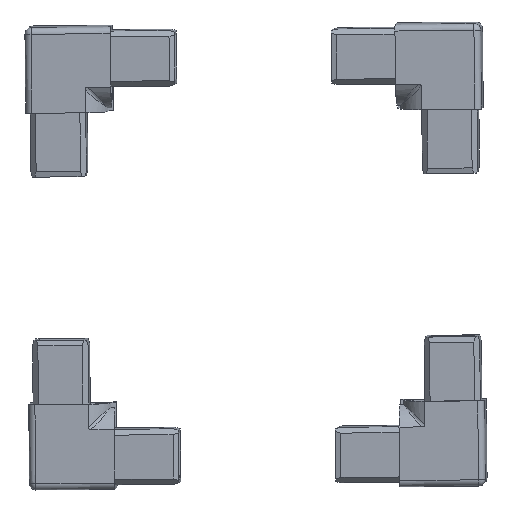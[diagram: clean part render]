
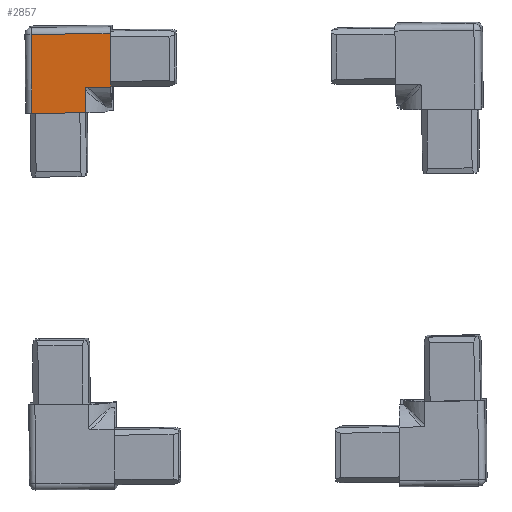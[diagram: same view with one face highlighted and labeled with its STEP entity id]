
A CAD part, left-side view. The second image highlights one B-rep face of the part: STEP entity #2857.
In plain terms, the highlighted planar face has unit normal (-0.999, 0.037, -0.033) as drawn and (0, 0, -1) by its records, which use the part's own axes.
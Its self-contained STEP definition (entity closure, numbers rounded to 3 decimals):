
#9 = EDGE_CURVE ( 'NONE', #1934, #2987, #3075, .T. ) ;
#86 = EDGE_CURVE ( 'NONE', #202, #1067, #1609, .T. ) ;
#98 = CARTESIAN_POINT ( 'NONE',  ( -13.021, 14.133, -15. ) ) ;
#166 = VERTEX_POINT ( 'NONE', #2409 ) ;
#184 = DIRECTION ( 'NONE',  ( 0., -1., 0. ) ) ;
#202 = VERTEX_POINT ( 'NONE', #977 ) ;
#235 = CARTESIAN_POINT ( 'NONE',  ( -25., 13.021, -15. ) ) ;
#247 = LINE ( 'NONE', #1017, #1184 ) ;
#255 = ORIENTED_EDGE ( 'NONE', *, *, #869, .T. ) ;
#391 = CARTESIAN_POINT ( 'NONE',  ( 12., -15., -15. ) ) ;
#455 = DIRECTION ( 'NONE',  ( 0., 1., 0. ) ) ;
#468 = CARTESIAN_POINT ( 'NONE',  ( -13.021, 14.133, -15. ) ) ;
#537 = VECTOR ( 'NONE', #1728, 1000. ) ;
#578 = EDGE_CURVE ( 'NONE', #2728, #1934, #1074, .T. ) ;
#700 = B_SPLINE_CURVE_WITH_KNOTS ( 'NONE', 3,
 ( #990, #3101, #1949, #468 ),
 .UNSPECIFIED., .F., .F.,
 ( 4, 4 ),
 ( 0., 1. ),
 .UNSPECIFIED. ) ;
#745 = ORIENTED_EDGE ( 'NONE', *, *, #1673, .T. ) ;
#808 = VECTOR ( 'NONE', #184, 1000. ) ;
#869 = EDGE_CURVE ( 'NONE', #2976, #166, #2879, .T. ) ;
#874 = CARTESIAN_POINT ( 'NONE',  ( -25., -15., -15. ) ) ;
#941 = CARTESIAN_POINT ( 'NONE',  ( -13.021, -0.511, -15. ) ) ;
#961 = DIRECTION ( 'NONE',  ( 0., 0., 1. ) ) ;
#977 = CARTESIAN_POINT ( 'NONE',  ( 12., 25., -15. ) ) ;
#990 = CARTESIAN_POINT ( 'NONE',  ( -14.133, 13.021, -15. ) ) ;
#1017 = CARTESIAN_POINT ( 'NONE',  ( 15., 25., -15. ) ) ;
#1067 = VERTEX_POINT ( 'NONE', #1349 ) ;
#1074 = LINE ( 'NONE', #1089, #2132 ) ;
#1089 = CARTESIAN_POINT ( 'NONE',  ( 0.511, 13.021, -15. ) ) ;
#1183 = DIRECTION ( 'NONE',  ( 1., 0., 0. ) ) ;
#1184 = VECTOR ( 'NONE', #1990, 1000. ) ;
#1209 = EDGE_CURVE ( 'NONE', #202, #166, #247, .T. ) ;
#1349 = CARTESIAN_POINT ( 'NONE',  ( 12., -12., -15. ) ) ;
#1609 = LINE ( 'NONE', #391, #2969 ) ;
#1673 = EDGE_CURVE ( 'NONE', #1067, #2987, #2709, .T. ) ;
#1728 = DIRECTION ( 'NONE',  ( -1., 0., 0. ) ) ;
#1814 = CARTESIAN_POINT ( 'NONE',  ( -14.133, 13.021, -15. ) ) ;
#1855 = ORIENTED_EDGE ( 'NONE', *, *, #2852, .T. ) ;
#1926 = CARTESIAN_POINT ( 'NONE',  ( 15., -12., -15. ) ) ;
#1934 = VERTEX_POINT ( 'NONE', #235 ) ;
#1949 = CARTESIAN_POINT ( 'NONE',  ( -13.021, 13.402, -15. ) ) ;
#1959 = AXIS2_PLACEMENT_3D ( 'NONE', #2674, #961, #1183 ) ;
#1990 = DIRECTION ( 'NONE',  ( -1., 0., 0. ) ) ;
#2132 = VECTOR ( 'NONE', #2775, 1000. ) ;
#2409 = CARTESIAN_POINT ( 'NONE',  ( -13.021, 25., -15. ) ) ;
#2421 = EDGE_LOOP ( 'NONE', ( #2620, #745, #2477, #2977, #1855, #255, #2597 ) ) ;
#2477 = ORIENTED_EDGE ( 'NONE', *, *, #9, .F. ) ;
#2577 = DIRECTION ( 'NONE',  ( 0., -1., 0. ) ) ;
#2597 = ORIENTED_EDGE ( 'NONE', *, *, #1209, .F. ) ;
#2620 = ORIENTED_EDGE ( 'NONE', *, *, #86, .T. ) ;
#2644 = FACE_OUTER_BOUND ( 'NONE', #2421, .T. ) ;
#2674 = CARTESIAN_POINT ( 'NONE',  ( 15., -15., -15. ) ) ;
#2709 = LINE ( 'NONE', #1926, #537 ) ;
#2728 = VERTEX_POINT ( 'NONE', #1814 ) ;
#2775 = DIRECTION ( 'NONE',  ( -1., 0., 0. ) ) ;
#2852 = EDGE_CURVE ( 'NONE', #2728, #2976, #700, .T. ) ;
#2857 = ADVANCED_FACE ( 'NONE', ( #2644 ), #2895, .F. ) ;
#2879 = LINE ( 'NONE', #941, #2888 ) ;
#2888 = VECTOR ( 'NONE', #455, 1000. ) ;
#2895 = PLANE ( 'NONE',  #1959 ) ;
#2969 = VECTOR ( 'NONE', #2577, 1000. ) ;
#2971 = CARTESIAN_POINT ( 'NONE',  ( -25., -12., -15. ) ) ;
#2976 = VERTEX_POINT ( 'NONE', #98 ) ;
#2977 = ORIENTED_EDGE ( 'NONE', *, *, #578, .F. ) ;
#2987 = VERTEX_POINT ( 'NONE', #2971 ) ;
#3075 = LINE ( 'NONE', #874, #808 ) ;
#3101 = CARTESIAN_POINT ( 'NONE',  ( -13.403, 13.021, -15. ) ) ;
